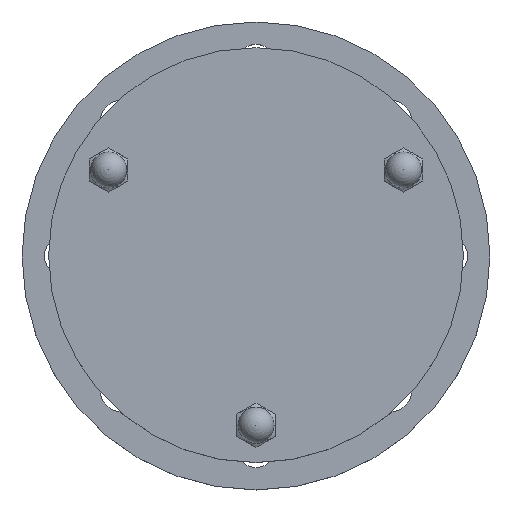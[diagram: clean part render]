
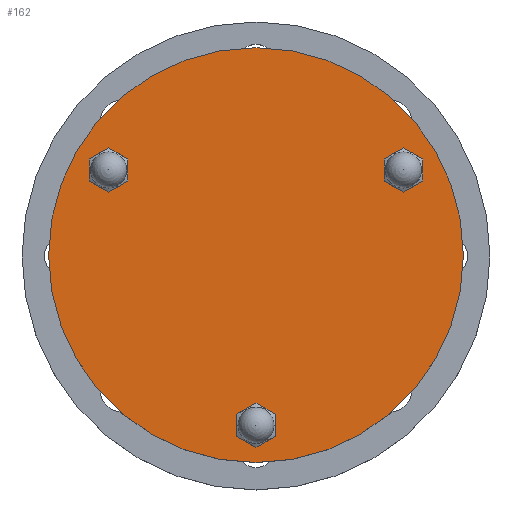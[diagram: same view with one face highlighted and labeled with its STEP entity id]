
A CAD part, top view. The second image highlights one B-rep face of the part: STEP entity #162.
In plain terms, the highlighted planar face has unit normal (0, 0, 1).
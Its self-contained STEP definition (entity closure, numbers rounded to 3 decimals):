
#162=ADVANCED_FACE('',(#863,#865,#867,#869),#871,.T.);
#863=FACE_BOUND('',#864,.T.);
#864=EDGE_LOOP('',(#1628));
#865=FACE_BOUND('',#866,.T.);
#866=EDGE_LOOP('',(#1629));
#867=FACE_BOUND('',#868,.T.);
#868=EDGE_LOOP('',(#1630));
#869=FACE_BOUND('',#870,.T.);
#870=EDGE_LOOP('',(#1631));
#871=PLANE('',#872);
#872=AXIS2_PLACEMENT_3D('',#873,#874,#875);
#873=CARTESIAN_POINT('',(0.,0.,248.));
#874=DIRECTION('',(0.,0.,1.));
#875=DIRECTION('',(-1.,0.,0.));
#1628=ORIENTED_EDGE('',*,*,#2008,.F.);
#1629=ORIENTED_EDGE('',*,*,#2009,.F.);
#1630=ORIENTED_EDGE('',*,*,#2010,.F.);
#1631=ORIENTED_EDGE('',*,*,#2011,.F.);
#2008=EDGE_CURVE('',#2168,#2168,#2169,.T.);
#2009=EDGE_CURVE('',#2170,#2170,#2171,.T.);
#2010=EDGE_CURVE('',#2172,#2172,#2173,.T.);
#2011=EDGE_CURVE('',#2174,#2174,#2175,.T.);
#2168=VERTEX_POINT('',#2429);
#2169=CIRCLE('',#2430,97.5);
#2170=VERTEX_POINT('',#2434);
#2171=CIRCLE('',#2435,8.1);
#2172=VERTEX_POINT('',#2439);
#2173=CIRCLE('',#2440,8.1);
#2174=VERTEX_POINT('',#2444);
#2175=CIRCLE('',#2445,8.1);
#2429=CARTESIAN_POINT('',(-97.5,0.,248.));
#2430=AXIS2_PLACEMENT_3D('',#2431,#2432,#2433);
#2431=CARTESIAN_POINT('',(0.,0.,248.));
#2432=DIRECTION('',(0.,0.,-1.));
#2433=DIRECTION('',(-1.,0.,0.));
#2434=CARTESIAN_POINT('',(76.297,44.05,248.));
#2435=AXIS2_PLACEMENT_3D('',#2436,#2437,#2438);
#2436=CARTESIAN_POINT('',(69.282,40.,248.));
#2437=DIRECTION('',(0.,0.,1.));
#2438=DIRECTION('',(0.866,0.5,0.));
#2439=CARTESIAN_POINT('',(0.,-88.1,248.));
#2440=AXIS2_PLACEMENT_3D('',#2441,#2442,#2443);
#2441=CARTESIAN_POINT('',(0.,-80.,248.));
#2442=DIRECTION('',(0.,0.,1.));
#2443=DIRECTION('',(0.,-1.,0.));
#2444=CARTESIAN_POINT('',(-76.297,44.05,248.));
#2445=AXIS2_PLACEMENT_3D('',#2446,#2447,#2448);
#2446=CARTESIAN_POINT('',(-69.282,40.,248.));
#2447=DIRECTION('',(0.,0.,1.));
#2448=DIRECTION('',(-0.866,0.5,0.));
